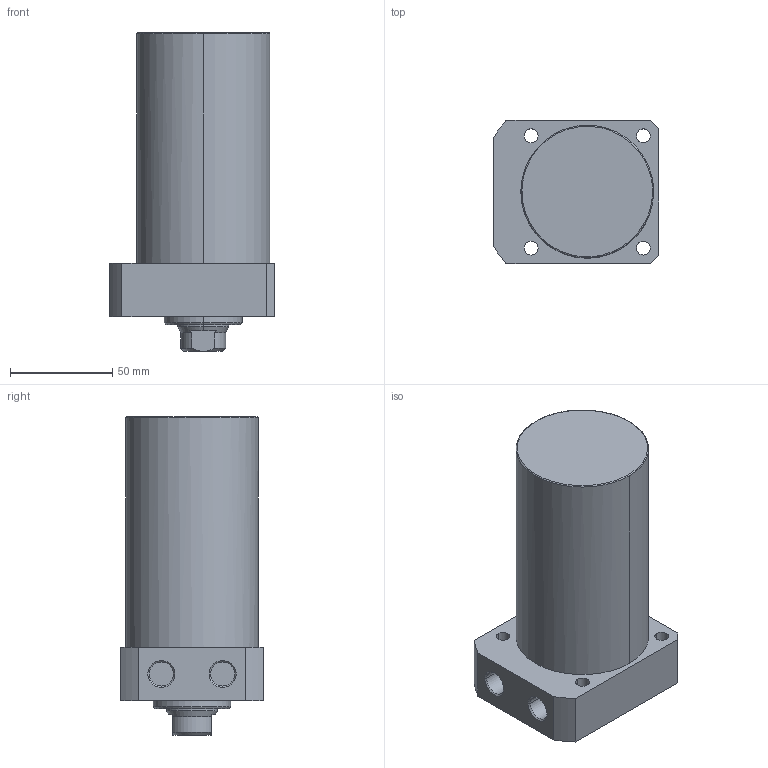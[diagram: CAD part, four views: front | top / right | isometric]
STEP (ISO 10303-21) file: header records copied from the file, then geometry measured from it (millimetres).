
FILE_DESCRIPTION((' '),'2;1');
FILE_NAME( 'TLLR-065CA-080.STEP.stp', '2025-10-24T16:34:53', (' '), ('--- Datakit www.datakit.com---'), ' Datakit CrossCadWare V2024.1 Dec 21 2023', 'Mastercam 2025', ' ');
FILE_SCHEMA(('AUTOMOTIVE_DESIGN { 1 0 10303 214 1 1 1 1 }'));
Length unit declared in the file: millimetre
Products named in the file (1): TLLR-065CA-080
Bounding box: 81 x 70 x 156 mm (x, y, z)
Volume: 518918.3 mm3; surface area: 47488.8 mm2
Topology: 1 solids, 1 shells, 63 faces, 177 edges, 122 vertices
Faces by surface type: cylinder 28, plane 19, cone 14, torus 2
Entity records: 2168 total; most frequent: CARTESIAN_POINT 405, DIRECTION 400, ORIENTED_EDGE 350, EDGE_CURVE 175, AXIS2_PLACEMENT_3D 169, VERTEX_POINT 122, CIRCLE 105, EDGE_LOOP 79
